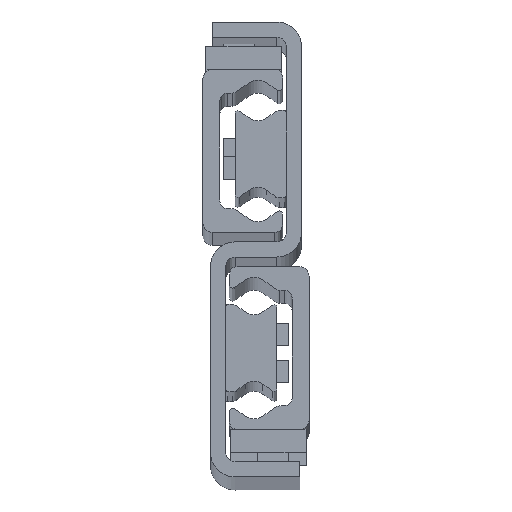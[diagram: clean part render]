
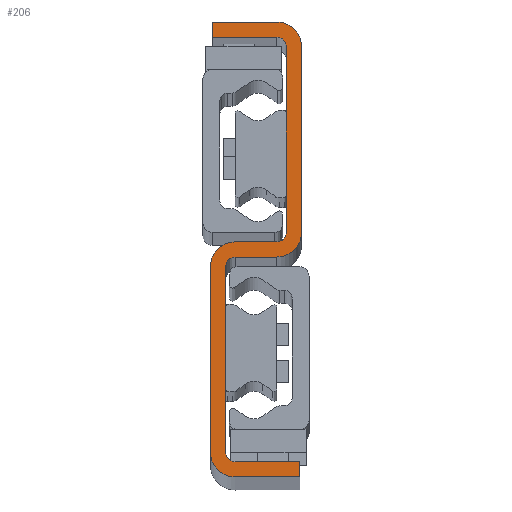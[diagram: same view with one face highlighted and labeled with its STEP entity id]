
A CAD part, top view. The second image highlights one B-rep face of the part: STEP entity #206.
In plain terms, the highlighted planar face has unit normal (0, 0, 1).
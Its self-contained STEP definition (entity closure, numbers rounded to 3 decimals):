
#206=ADVANCED_FACE('',(#777),#778,.T.);
#777=FACE_OUTER_BOUND('',#1739,.T.);
#778=PLANE('',#1740);
#1739=EDGE_LOOP('',(#3421,#3422,#3423,#3424,#3425,#3426,#3427,#3428,#3429,#3430,#3431,#3432,#3433,#3434,#3435,#3436,#3437,#3438,#3439,#3440));
#1740=AXIS2_PLACEMENT_3D('',#3441,#3442,#3443);
#3421=ORIENTED_EDGE('',*,*,#6129,.F.);
#3422=ORIENTED_EDGE('',*,*,#6187,.F.);
#3423=ORIENTED_EDGE('',*,*,#6184,.F.);
#3424=ORIENTED_EDGE('',*,*,#6181,.F.);
#3425=ORIENTED_EDGE('',*,*,#6178,.F.);
#3426=ORIENTED_EDGE('',*,*,#6175,.F.);
#3427=ORIENTED_EDGE('',*,*,#6172,.F.);
#3428=ORIENTED_EDGE('',*,*,#6169,.F.);
#3429=ORIENTED_EDGE('',*,*,#6166,.F.);
#3430=ORIENTED_EDGE('',*,*,#6163,.F.);
#3431=ORIENTED_EDGE('',*,*,#6160,.F.);
#3432=ORIENTED_EDGE('',*,*,#6157,.F.);
#3433=ORIENTED_EDGE('',*,*,#6154,.F.);
#3434=ORIENTED_EDGE('',*,*,#6151,.F.);
#3435=ORIENTED_EDGE('',*,*,#6148,.F.);
#3436=ORIENTED_EDGE('',*,*,#6145,.F.);
#3437=ORIENTED_EDGE('',*,*,#6142,.F.);
#3438=ORIENTED_EDGE('',*,*,#6139,.F.);
#3439=ORIENTED_EDGE('',*,*,#6136,.F.);
#3440=ORIENTED_EDGE('',*,*,#6133,.F.);
#3441=CARTESIAN_POINT('',(-14.,26.,1970.0));
#3442=DIRECTION('',(0.0,0.0,1.0));
#3443=DIRECTION('',(1.0,0.0,0.0));
#6129=EDGE_CURVE('',#7407,#7408,#7409,.T.);
#6133=EDGE_CURVE('',#7408,#7415,#7416,.T.);
#6136=EDGE_CURVE('',#7415,#7420,#7421,.T.);
#6139=EDGE_CURVE('',#7420,#7425,#7426,.T.);
#6142=EDGE_CURVE('',#7425,#7430,#7431,.T.);
#6145=EDGE_CURVE('',#7430,#7435,#7436,.T.);
#6148=EDGE_CURVE('',#7435,#7440,#7441,.T.);
#6151=EDGE_CURVE('',#7440,#7445,#7446,.T.);
#6154=EDGE_CURVE('',#7445,#7450,#7451,.T.);
#6157=EDGE_CURVE('',#7450,#7455,#7456,.T.);
#6160=EDGE_CURVE('',#7455,#7460,#7461,.T.);
#6163=EDGE_CURVE('',#7460,#7465,#7466,.T.);
#6166=EDGE_CURVE('',#7465,#7470,#7471,.T.);
#6169=EDGE_CURVE('',#7470,#7475,#7476,.T.);
#6172=EDGE_CURVE('',#7475,#7480,#7481,.T.);
#6175=EDGE_CURVE('',#7480,#7485,#7486,.T.);
#6178=EDGE_CURVE('',#7485,#7490,#7491,.T.);
#6181=EDGE_CURVE('',#7490,#7495,#7496,.T.);
#6184=EDGE_CURVE('',#7495,#7500,#7501,.T.);
#6187=EDGE_CURVE('',#7500,#7407,#7505,.T.);
#7407=VERTEX_POINT('',#9393);
#7408=VERTEX_POINT('',#9394);
#7409=LINE('',#9395,#9396);
#7415=VERTEX_POINT('',#9405);
#7416=CIRCLE('',#9406,2.5);
#7420=VERTEX_POINT('',#9411);
#7421=LINE('',#9412,#9413);
#7425=VERTEX_POINT('',#9419);
#7426=CIRCLE('',#9420,2.5);
#7430=VERTEX_POINT('',#9425);
#7431=LINE('',#9426,#9427);
#7435=VERTEX_POINT('',#9433);
#7436=LINE('',#9434,#9435);
#7440=VERTEX_POINT('',#9441);
#7441=LINE('',#9442,#9443);
#7445=VERTEX_POINT('',#9449);
#7446=CIRCLE('',#9450,6.5);
#7450=VERTEX_POINT('',#9455);
#7451=LINE('',#9456,#9457);
#7455=VERTEX_POINT('',#9463);
#7456=CIRCLE('',#9464,6.5);
#7460=VERTEX_POINT('',#9469);
#7461=LINE('',#9470,#9471);
#7465=VERTEX_POINT('',#9477);
#7466=CIRCLE('',#9478,2.5);
#7470=VERTEX_POINT('',#9483);
#7471=LINE('',#9484,#9485);
#7475=VERTEX_POINT('',#9491);
#7476=CIRCLE('',#9492,2.5);
#7480=VERTEX_POINT('',#9497);
#7481=LINE('',#9498,#9499);
#7485=VERTEX_POINT('',#9505);
#7486=LINE('',#9506,#9507);
#7490=VERTEX_POINT('',#9513);
#7491=LINE('',#9514,#9515);
#7495=VERTEX_POINT('',#9521);
#7496=CIRCLE('',#9522,6.5);
#7500=VERTEX_POINT('',#9527);
#7501=LINE('',#9528,#9529);
#7505=CIRCLE('',#9535,6.5);
#9393=CARTESIAN_POINT('',(-8.5,24.,1970.0));
#9394=CARTESIAN_POINT('',(-19.5,24.,1970.0));
#9395=CARTESIAN_POINT('',(-8.5,24.,1970.0));
#9396=VECTOR('',#11589,1.0);
#9405=CARTESIAN_POINT('',(-22.,21.5,1970.0));
#9406=AXIS2_PLACEMENT_3D('',#11593,#11594,#11595);
#9411=CARTESIAN_POINT('',(-22.,-27.5,1970.0));
#9412=CARTESIAN_POINT('',(-22.,-27.5,1970.0));
#9413=VECTOR('',#11600,1.0);
#9419=CARTESIAN_POINT('',(-19.5,-30.,1970.0));
#9420=AXIS2_PLACEMENT_3D('',#11603,#11604,#11605);
#9425=CARTESIAN_POINT('',(-2.5,-30.,1970.0));
#9426=CARTESIAN_POINT('',(-19.5,-30.,1970.0));
#9427=VECTOR('',#11610,1.0);
#9433=CARTESIAN_POINT('',(-2.5,-34.,1970.0));
#9434=CARTESIAN_POINT('',(-2.5,-34.,1970.0));
#9435=VECTOR('',#11613,1.0);
#9441=CARTESIAN_POINT('',(-19.5,-34.,1970.0));
#9442=CARTESIAN_POINT('',(-19.5,-34.,1970.0));
#9443=VECTOR('',#11616,1.0);
#9449=CARTESIAN_POINT('',(-26.,-27.5,1970.0));
#9450=AXIS2_PLACEMENT_3D('',#11619,#11620,#11621);
#9455=CARTESIAN_POINT('',(-26.,21.5,1970.0));
#9456=CARTESIAN_POINT('',(-26.,21.5,1970.0));
#9457=VECTOR('',#11626,1.0);
#9463=CARTESIAN_POINT('',(-19.5,28.,1970.0));
#9464=AXIS2_PLACEMENT_3D('',#11629,#11630,#11631);
#9469=CARTESIAN_POINT('',(-8.5,28.,1970.0));
#9470=CARTESIAN_POINT('',(-8.5,28.,1970.0));
#9471=VECTOR('',#11636,1.0);
#9477=CARTESIAN_POINT('',(-6.,30.5,1970.0));
#9478=AXIS2_PLACEMENT_3D('',#11639,#11640,#11641);
#9483=CARTESIAN_POINT('',(-6.,79.5,1970.0));
#9484=CARTESIAN_POINT('',(-6.,79.5,1970.0));
#9485=VECTOR('',#11646,1.0);
#9491=CARTESIAN_POINT('',(-8.5,82.,1970.0));
#9492=AXIS2_PLACEMENT_3D('',#11649,#11650,#11651);
#9497=CARTESIAN_POINT('',(-25.5,82.,1970.0));
#9498=CARTESIAN_POINT('',(-25.5,82.,1970.0));
#9499=VECTOR('',#11656,1.0);
#9505=CARTESIAN_POINT('',(-25.5,86.,1970.0));
#9506=CARTESIAN_POINT('',(-25.5,86.,1970.0));
#9507=VECTOR('',#11659,1.0);
#9513=CARTESIAN_POINT('',(-8.5,86.,1970.0));
#9514=CARTESIAN_POINT('',(-25.5,86.,1970.0));
#9515=VECTOR('',#11662,1.0);
#9521=CARTESIAN_POINT('',(-2.,79.5,1970.0));
#9522=AXIS2_PLACEMENT_3D('',#11665,#11666,#11667);
#9527=CARTESIAN_POINT('',(-2.,30.5,1970.0));
#9528=CARTESIAN_POINT('',(-2.,79.5,1970.0));
#9529=VECTOR('',#11672,1.0);
#9535=AXIS2_PLACEMENT_3D('',#11675,#11676,#11677);
#11589=DIRECTION('',(-1.0,0.,0.0));
#11593=CARTESIAN_POINT('',(-19.5,21.5,1970.0));
#11594=DIRECTION('',(0.0,0.0,1.0));
#11595=DIRECTION('',(1.0,0.0,0.0));
#11600=DIRECTION('',(-0.0,-1.0,-0.0));
#11603=CARTESIAN_POINT('',(-19.5,-27.5,1970.0));
#11604=DIRECTION('',(0.0,0.0,1.0));
#11605=DIRECTION('',(1.0,0.0,0.0));
#11610=DIRECTION('',(1.,0.,0.0));
#11613=DIRECTION('',(-0.0,-1.0,-0.0));
#11616=DIRECTION('',(-1.,0.,-0.0));
#11619=CARTESIAN_POINT('',(-19.5,-27.5,1970.0));
#11620=DIRECTION('',(0.0,0.0,-1.0));
#11621=DIRECTION('',(1.0,0.0,0.0));
#11626=DIRECTION('',(0.0,1.0,0.0));
#11629=CARTESIAN_POINT('',(-19.5,21.5,1970.0));
#11630=DIRECTION('',(0.0,0.0,-1.0));
#11631=DIRECTION('',(1.0,0.0,0.0));
#11636=DIRECTION('',(1.0,0.,0.0));
#11639=CARTESIAN_POINT('',(-8.5,30.5,1970.0));
#11640=DIRECTION('',(0.0,0.0,1.0));
#11641=DIRECTION('',(1.0,0.0,0.0));
#11646=DIRECTION('',(0.0,1.0,0.0));
#11649=CARTESIAN_POINT('',(-8.5,79.5,1970.0));
#11650=DIRECTION('',(0.0,0.0,1.0));
#11651=DIRECTION('',(1.0,0.0,0.0));
#11656=DIRECTION('',(-1.,0.,0.0));
#11659=DIRECTION('',(0.0,1.0,0.0));
#11662=DIRECTION('',(1.,0.,0.0));
#11665=CARTESIAN_POINT('',(-8.5,79.5,1970.0));
#11666=DIRECTION('',(0.0,0.0,-1.0));
#11667=DIRECTION('',(1.0,0.0,0.0));
#11672=DIRECTION('',(0.,-1.0,0.0));
#11675=CARTESIAN_POINT('',(-8.5,30.5,1970.0));
#11676=DIRECTION('',(0.0,0.0,-1.0));
#11677=DIRECTION('',(1.0,0.0,0.0));
